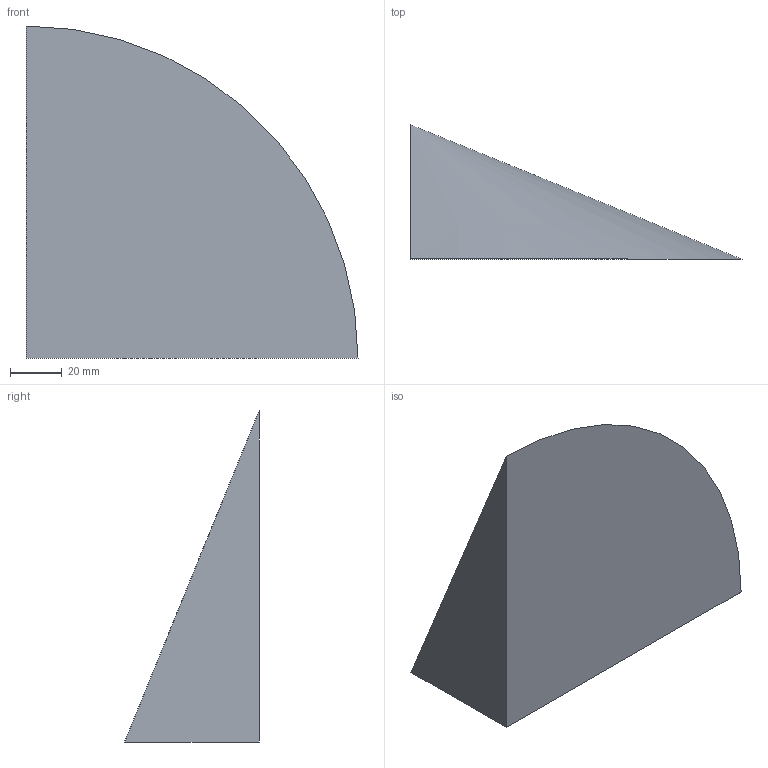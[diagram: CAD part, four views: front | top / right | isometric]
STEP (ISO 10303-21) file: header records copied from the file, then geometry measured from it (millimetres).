
FILE_DESCRIPTION(('CATIA V5 STEP Exchange'),'2;1');
FILE_NAME('C:\_Andres\UNIVERSIDAD\IQS\ASIGNATURAS\DAO\EXF\EXF-16172c\2inicio\Ribera_Armengol_Ej07_v28.stp','2017-03-05T21:18:14+00:00',('none'),('none'),'CATIA Version 5-6 Release 2014 SP1 HF18','CATIA V5 STEP AP203','none');
FILE_SCHEMA(('CONFIG_CONTROL_DESIGN'));
Length unit declared in the file: millimetre
Products named in the file (1): Ribera_Armengol_Ej07_v28
Bounding box: 128 x 52 x 128 mm (x, y, z)
Volume: 223044.7 mm3; surface area: 33413.3 mm2
Topology: 1 solids, 1 shells, 4 faces, 7 edges, 4 vertices
Faces by surface type: plane 3, cone 1
Entity records: 131 total; most frequent: CARTESIAN_POINT 15, DIRECTION 14, ORIENTED_EDGE 12, AXIS2_PLACEMENT_3D 6, EDGE_CURVE 6, VECTOR 5, LINE 5, ADVANCED_FACE 4
